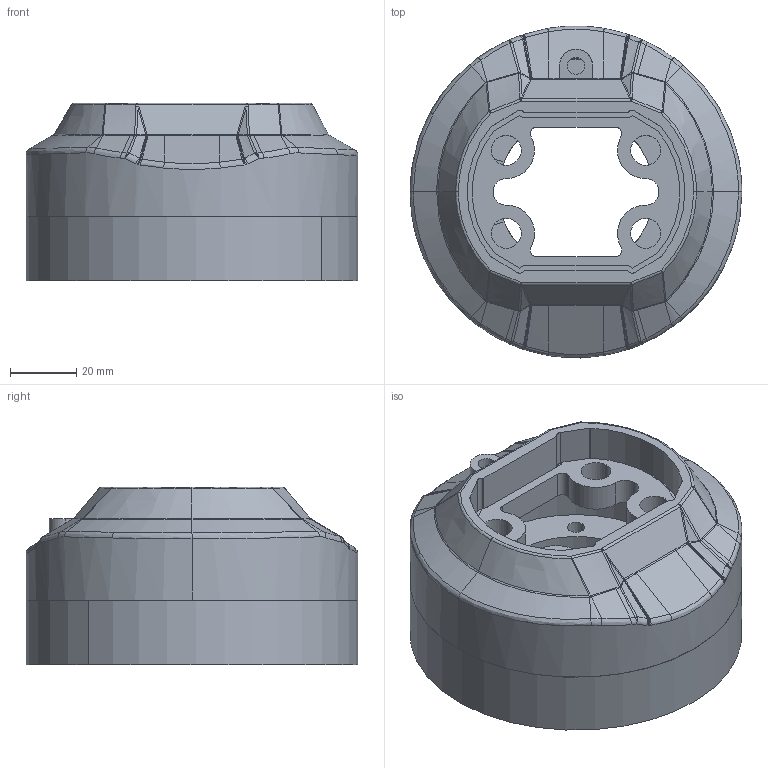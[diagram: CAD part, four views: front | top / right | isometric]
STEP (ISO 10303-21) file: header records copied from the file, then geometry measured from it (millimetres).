
FILE_DESCRIPTION (( 'STEP AP203' ), '1' );
FILE_NAME ('50-65-5000.STEP', '2019-07-18T02:06:23', ( 'User' ), ( 'Microsoft' ), 'SwSTEP 2.0', 'SolidWorks 2017', '' );
FILE_SCHEMA (( 'CONFIG_CONTROL_DESIGN' ));
Length unit declared in the file: millimetre
Products named in the file (4): 50-眊极蟀諉ん2; 50-眊极蟀諉璃1; 笢潔; 50-65-5000
Assembly tree (3 placements, depth 2):
  50-65-5000
    50-眊极蟀諉ん2
    50-眊极蟀諉璃1
    笢潔
Bounding box: 100 x 100 x 53.5 mm (x, y, z)
Volume: 211903.3 mm3; surface area: 73356.3 mm2
Topology: 3 solids, 3 shells, 444 faces, 1101 edges, 677 vertices
Faces by surface type: bspline 246, cylinder 126, plane 72
Entity records: 28415 total; most frequent: CARTESIAN_POINT 19008, ORIENTED_EDGE 2202, DIRECTION 1260, EDGE_CURVE 1101, VERTEX_POINT 677, B_SPLINE_CURVE_WITH_KNOTS 499, EDGE_LOOP 490, AXIS2_PLACEMENT_3D 455
